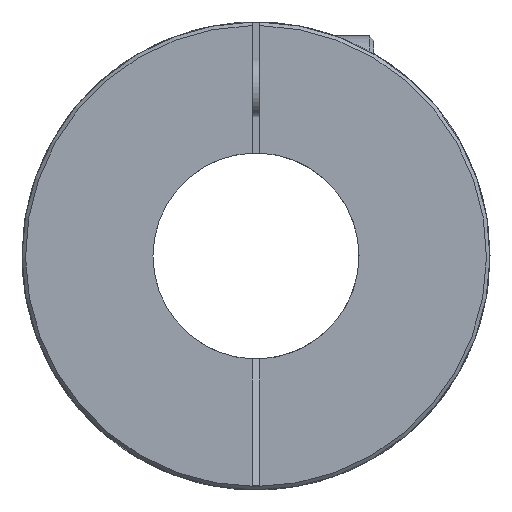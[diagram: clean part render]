
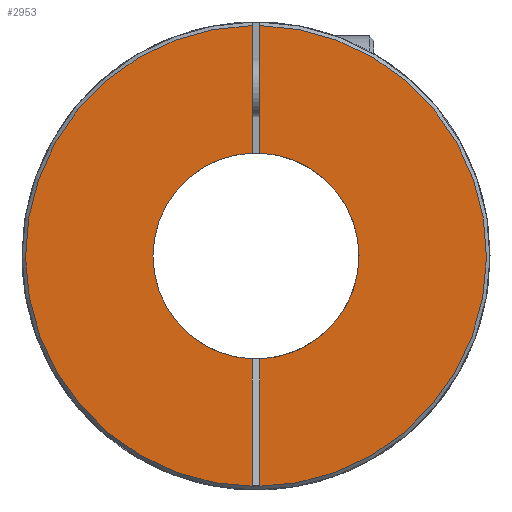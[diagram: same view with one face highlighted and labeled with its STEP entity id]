
A CAD part, front view. The second image highlights one B-rep face of the part: STEP entity #2953.
In plain terms, the highlighted planar face has unit normal (0, -1, 0).
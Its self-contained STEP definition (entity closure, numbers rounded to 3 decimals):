
#1=DIRECTION('',(0.,0.,-1.));
#2=VECTOR('',#1,8.662);
#3=CARTESIAN_POINT('',(-0.25,-22.25,15.658));
#4=LINE('',#3,#2);
#5=CARTESIAN_POINT('',(0.,-22.25,0.));
#6=DIRECTION('',(0.,1.,0.));
#7=DIRECTION('',(-1.,0.,0.));
#8=AXIS2_PLACEMENT_3D('',#5,#6,#7);
#10=CARTESIAN_POINT('',(0.,-22.25,0.));
#11=DIRECTION('',(0.,1.,0.));
#12=DIRECTION('',(-0.036,0.,-0.999));
#13=AXIS2_PLACEMENT_3D('',#10,#11,#12);
#15=DIRECTION('',(0.,0.,-1.));
#16=VECTOR('',#15,8.586);
#17=CARTESIAN_POINT('',(-0.25,-22.25,-6.996));
#18=LINE('',#17,#16);
#19=DIRECTION('',(1.,0.,0.));
#20=VECTOR('',#19,0.5);
#21=CARTESIAN_POINT('',(-0.25,-22.25,-15.582));
#22=LINE('',#21,#20);
#23=DIRECTION('',(0.,0.,-1.));
#24=VECTOR('',#23,8.586);
#25=CARTESIAN_POINT('',(0.25,-22.25,-6.996));
#26=LINE('',#25,#24);
#27=DIRECTION('',(0.,0.,-1.));
#28=VECTOR('',#27,8.662);
#29=CARTESIAN_POINT('',(0.25,-22.25,15.658));
#30=LINE('',#29,#28);
#54=CARTESIAN_POINT('',(0.,-22.25,0.));
#55=DIRECTION('',(0.,1.,0.));
#56=DIRECTION('',(0.036,0.,0.999));
#57=AXIS2_PLACEMENT_3D('',#54,#55,#56);
#2495=CARTESIAN_POINT('',(0.,-22.25,0.));
#2496=DIRECTION('',(0.,-1.,0.));
#2497=DIRECTION('',(-0.016,0.,1.));
#2498=AXIS2_PLACEMENT_3D('',#2495,#2496,#2497);
#2664=CARTESIAN_POINT('',(-7.,-22.25,0.));
#2665=VERTEX_POINT('',#2664);
#2733=CARTESIAN_POINT('',(-0.25,-22.25,-15.582));
#2735=VERTEX_POINT('',#2733);
#2737=CARTESIAN_POINT('',(0.25,-22.25,-15.582));
#2739=VERTEX_POINT('',#2737);
#2788=CARTESIAN_POINT('',(-0.25,-22.25,15.658));
#2789=CARTESIAN_POINT('',(-0.25,-22.25,6.996));
#2790=VERTEX_POINT('',#2788);
#2791=VERTEX_POINT('',#2789);
#2792=CARTESIAN_POINT('',(-0.25,-22.25,-6.996));
#2793=VERTEX_POINT('',#2792);
#2794=CARTESIAN_POINT('',(0.25,-22.25,15.658));
#2795=CARTESIAN_POINT('',(0.25,-22.25,6.996));
#2796=VERTEX_POINT('',#2794);
#2797=VERTEX_POINT('',#2795);
#2798=CARTESIAN_POINT('',(0.25,-22.25,-6.996));
#2799=VERTEX_POINT('',#2798);
#2928=CARTESIAN_POINT('',(0.,-22.25,0.));
#2929=DIRECTION('',(0.,1.,0.));
#2930=DIRECTION('',(1.,0.,0.));
#2931=AXIS2_PLACEMENT_3D('',#2928,#2929,#2930);
#2932=PLANE('',#2931);
#2934=ORIENTED_EDGE('',*,*,#2933,.T.);
#2936=ORIENTED_EDGE('',*,*,#2935,.F.);
#2938=ORIENTED_EDGE('',*,*,#2937,.F.);
#2940=ORIENTED_EDGE('',*,*,#2939,.T.);
#2942=ORIENTED_EDGE('',*,*,#2941,.T.);
#2944=ORIENTED_EDGE('',*,*,#2943,.F.);
#2946=ORIENTED_EDGE('',*,*,#2945,.F.);
#2948=ORIENTED_EDGE('',*,*,#2947,.F.);
#2950=ORIENTED_EDGE('',*,*,#2949,.F.);
#2951=EDGE_LOOP('',(#2934,#2936,#2938,#2940,#2942,#2944,#2946,#2948,#2950));
#2952=FACE_OUTER_BOUND('',#2951,.F.);
#2953=ADVANCED_FACE('',(#2952),#2932,.F.);
#9=CIRCLE('',#8,7.);
#14=CIRCLE('',#13,7.);
#58=CIRCLE('',#57,7.);
#2499=CIRCLE('',#2498,15.66);
#2933=EDGE_CURVE('',#2790,#2791,#4,.T.);
#2935=EDGE_CURVE('',#2665,#2791,#9,.T.);
#2937=EDGE_CURVE('',#2793,#2665,#14,.T.);
#2939=EDGE_CURVE('',#2793,#2735,#18,.T.);
#2941=EDGE_CURVE('',#2735,#2739,#22,.T.);
#2943=EDGE_CURVE('',#2799,#2739,#26,.T.);
#2945=EDGE_CURVE('',#2797,#2799,#58,.T.);
#2947=EDGE_CURVE('',#2796,#2797,#30,.T.);
#2949=EDGE_CURVE('',#2790,#2796,#2499,.T.);
